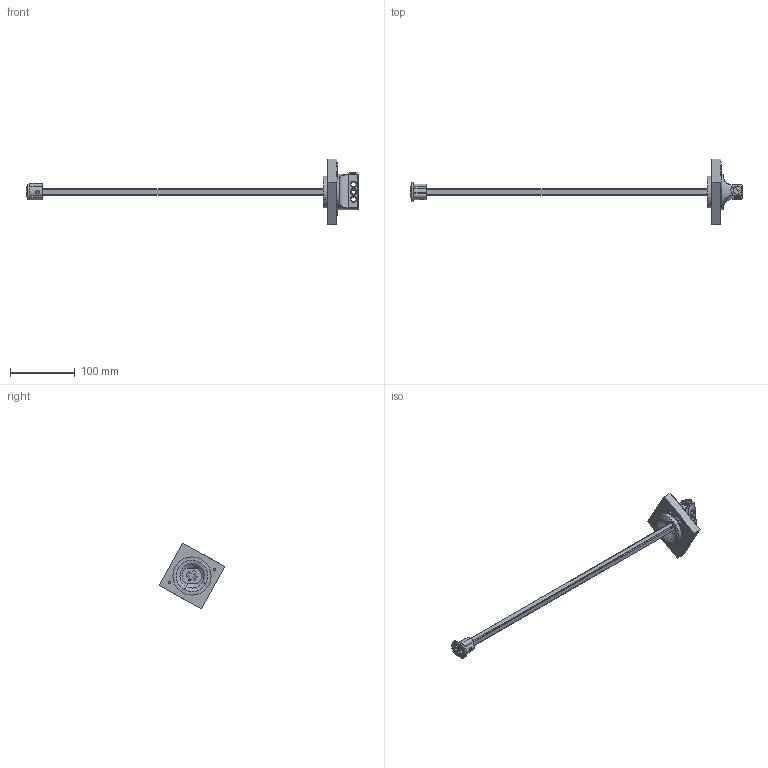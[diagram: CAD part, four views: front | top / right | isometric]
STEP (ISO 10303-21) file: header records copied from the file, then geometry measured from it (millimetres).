
FILE_DESCRIPTION((''),'2;1');
FILE_NAME('LV428941_ASM','2018-10-02T',('SESA468396'),('Schneider-Electric'),'PRO/ENGINEER BY PARAMETRIC TECHNOLOGY CORPORATION, 2015440','PRO/ENGINEER BY PARAMETRIC TECHNOLOGY CORPORATION, 2015440','');
FILE_SCHEMA(('CONFIG_CONTROL_DESIGN'));
Length unit declared in the file: millimetre
Products named in the file (5): LV428941-1; LV428941-2; LV428941-3; LV428941-4; LV428941_ASM
Assembly tree (4 placements, depth 2):
  LV428941_ASM
    LV428941-1
    LV428941-2
    LV428941-3
    LV428941-4
Bounding box: 513.05 x 101.84 x 101.84 mm (x, y, z)
Volume: 143511.8 mm3; surface area: 61014.7 mm2
Topology: 4 solids, 4 shells, 283 faces, 718 edges, 449 vertices
Faces by surface type: plane 124, cylinder 98, bspline 23, torus 18, sphere 14, cone 6
Entity records: 10531 total; most frequent: CARTESIAN_POINT 3684, ORIENTED_EDGE 1424, DIRECTION 1402, EDGE_CURVE 712, AXIS2_PLACEMENT_3D 524, VERTEX_POINT 449, VECTOR 354, LINE 354
